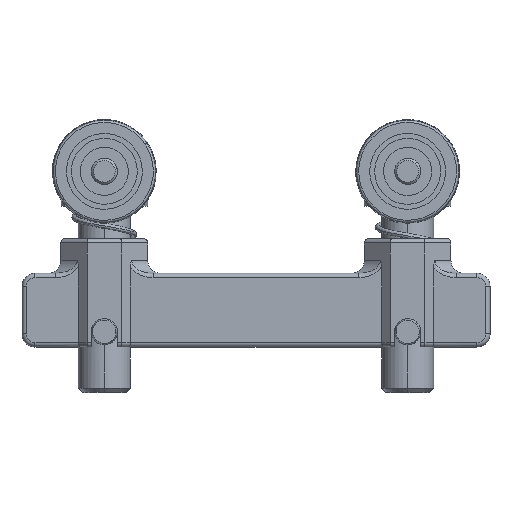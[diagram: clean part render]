
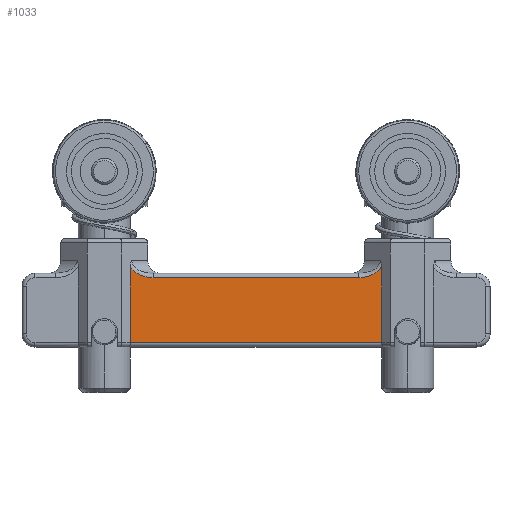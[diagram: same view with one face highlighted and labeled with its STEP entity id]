
A CAD part, top view. The second image highlights one B-rep face of the part: STEP entity #1033.
In plain terms, the highlighted planar face has unit normal (0, 0, 1).
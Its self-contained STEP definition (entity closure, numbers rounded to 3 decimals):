
#1033 = ADVANCED_FACE ( 'NONE', ( #4523 ), #4519, .F. ) ;
#1034 = ORIENTED_EDGE ( 'NONE', *, *, #1079, .T. ) ;
#1035 = VERTEX_POINT ( 'NONE', #4530 ) ;
#1036 = ORIENTED_EDGE ( 'NONE', *, *, #1097, .T. ) ;
#1037 = EDGE_CURVE ( 'NONE', #1103, #1039, #4510, .T. ) ;
#1038 = VERTEX_POINT ( 'NONE', #4555 ) ;
#1039 = VERTEX_POINT ( 'NONE', #4554 ) ;
#1078 = ORIENTED_EDGE ( 'NONE', *, *, #1037, .T. ) ;
#1079 = EDGE_CURVE ( 'NONE', #1039, #1035, #4586, .T. ) ;
#1080 = VERTEX_POINT ( 'NONE', #4606 ) ;
#1082 = EDGE_CURVE ( 'NONE', #1035, #1080, #4627, .T. ) ;
#1085 = ORIENTED_EDGE ( 'NONE', *, *, #1090, .T. ) ;
#1086 = ORIENTED_EDGE ( 'NONE', *, *, #1082, .T. ) ;
#1087 = EDGE_CURVE ( 'NONE', #1080, #1038, #4629, .T. ) ;
#1090 = EDGE_CURVE ( 'NONE', #1038, #1102, #4618, .T. ) ;
#1092 = EDGE_LOOP ( 'NONE', ( #1036, #1078, #1034, #1086, #1101, #1085 ) ) ;
#1097 = EDGE_CURVE ( 'NONE', #1102, #1103, #4649, .T. ) ;
#1101 = ORIENTED_EDGE ( 'NONE', *, *, #1087, .T. ) ;
#1102 = VERTEX_POINT ( 'NONE', #4639 ) ;
#1103 = VERTEX_POINT ( 'NONE', #4638 ) ;
#3024 = CARTESIAN_POINT ( 'NONE',  ( 77.757, 16., -2. ) ) ;
#3025 = CARTESIAN_POINT ( 'NONE',  ( 80.135, 16., -2. ) ) ;
#4503 = AXIS2_PLACEMENT_3D ( 'NONE', #4524, #4526, #4517 ) ;
#4504 = CARTESIAN_POINT ( 'NONE',  ( 82.107, 16.939, -2. ) ) ;
#4505 = CARTESIAN_POINT ( 'NONE',  ( 83., 18.498, -2. ) ) ;
#4510 =( BOUNDED_CURVE ( )  B_SPLINE_CURVE ( 3, ( #4505, #4504, #3025, #3024 ),
 .UNSPECIFIED., .F., .F. ) 
 B_SPLINE_CURVE_WITH_KNOTS ( ( 4, 4 ),
 ( 3.527, 4.712 ),
 .UNSPECIFIED. ) 
 CURVE ( )  GEOMETRIC_REPRESENTATION_ITEM ( )  RATIONAL_B_SPLINE_CURVE ( ( 1., 0.886, 0.886, 1. ) ) 
 REPRESENTATION_ITEM ( '' )  );
#4517 = DIRECTION ( 'NONE',  ( -1., 0., 0. ) ) ;
#4519 = PLANE ( 'NONE',  #4503 ) ;
#4523 = FACE_OUTER_BOUND ( 'NONE', #1092, .T. ) ;
#4524 = CARTESIAN_POINT ( 'NONE',  ( 29., 0., -2. ) ) ;
#4526 = DIRECTION ( 'NONE',  ( 0., 0., -1. ) ) ;
#4530 = CARTESIAN_POINT ( 'NONE',  ( 30.243, 16., -2. ) ) ;
#4554 = CARTESIAN_POINT ( 'NONE',  ( 77.757, 16., -2. ) ) ;
#4555 = CARTESIAN_POINT ( 'NONE',  ( 25., 1., -2. ) ) ;
#4584 = DIRECTION ( 'NONE',  ( -1., 0., 0. ) ) ;
#4585 = CARTESIAN_POINT ( 'NONE',  ( 29.243, 16., -2. ) ) ;
#4586 = LINE ( 'NONE', #4585, #4630 ) ;
#4606 = CARTESIAN_POINT ( 'NONE',  ( 25., 18.498, -2. ) ) ;
#4614 = DIRECTION ( 'NONE',  ( 1., 0., 0. ) ) ;
#4615 = VECTOR ( 'NONE', #4614, 1000. ) ;
#4616 = CARTESIAN_POINT ( 'NONE',  ( 83., 1., -2. ) ) ;
#4618 = LINE ( 'NONE', #4616, #4615 ) ;
#4619 = DIRECTION ( 'NONE',  ( 0., -1., 0. ) ) ;
#4620 = VECTOR ( 'NONE', #4619, 1000. ) ;
#4621 = CARTESIAN_POINT ( 'NONE',  ( 25., 0., -2. ) ) ;
#4623 = CARTESIAN_POINT ( 'NONE',  ( 25., 18.498, -2. ) ) ;
#4624 = CARTESIAN_POINT ( 'NONE',  ( 25.893, 16.939, -2. ) ) ;
#4625 = CARTESIAN_POINT ( 'NONE',  ( 27.865, 16., -2. ) ) ;
#4626 = CARTESIAN_POINT ( 'NONE',  ( 30.243, 16., -2. ) ) ;
#4627 =( BOUNDED_CURVE ( )  B_SPLINE_CURVE ( 3, ( #4626, #4625, #4624, #4623 ),
 .UNSPECIFIED., .F., .T. ) 
 B_SPLINE_CURVE_WITH_KNOTS ( ( 4, 4 ),
 ( 4.712, 5.898 ),
 .UNSPECIFIED. ) 
 CURVE ( )  GEOMETRIC_REPRESENTATION_ITEM ( )  RATIONAL_B_SPLINE_CURVE ( ( 1., 0.886, 0.886, 1. ) ) 
 REPRESENTATION_ITEM ( '' )  );
#4629 = LINE ( 'NONE', #4621, #4620 ) ;
#4630 = VECTOR ( 'NONE', #4584, 1000. ) ;
#4638 = CARTESIAN_POINT ( 'NONE',  ( 83., 18.498, -2. ) ) ;
#4639 = CARTESIAN_POINT ( 'NONE',  ( 83., 1., -2. ) ) ;
#4646 = DIRECTION ( 'NONE',  ( 0., 1., 0. ) ) ;
#4647 = VECTOR ( 'NONE', #4646, 1000. ) ;
#4648 = CARTESIAN_POINT ( 'NONE',  ( 83., 0., -2. ) ) ;
#4649 = LINE ( 'NONE', #4648, #4647 ) ;
